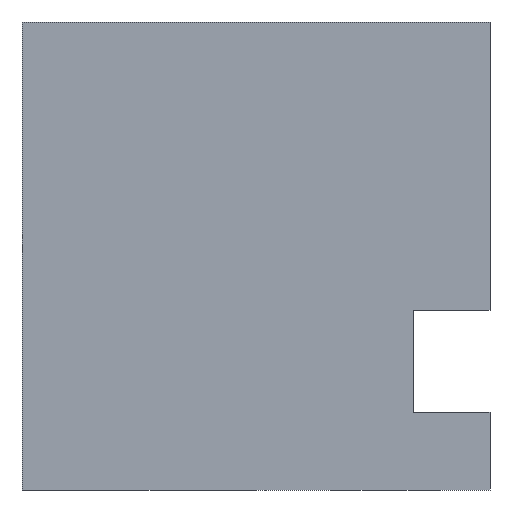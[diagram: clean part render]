
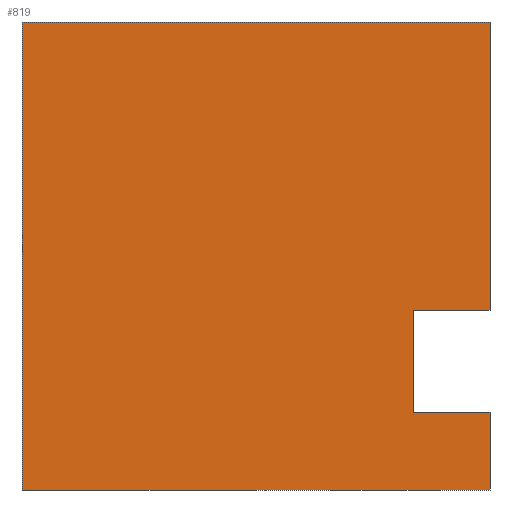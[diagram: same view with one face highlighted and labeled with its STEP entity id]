
A CAD part, left-side view. The second image highlights one B-rep face of the part: STEP entity #819.
In plain terms, the highlighted planar face has unit normal (-1, 0, 0).
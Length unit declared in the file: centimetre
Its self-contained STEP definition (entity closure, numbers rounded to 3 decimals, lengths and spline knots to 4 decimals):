
#5 = CARTESIAN_POINT ( 'NONE',  ( 0., 0., 0. ) ) ;
#16 = FACE_OUTER_BOUND ( 'NONE', #747, .T. ) ;
#43 = EDGE_CURVE ( 'NONE', #1281, #473, #462, .T. ) ;
#56 = EDGE_CURVE ( 'NONE', #553, #1281, #1005, .T. ) ;
#70 = DIRECTION ( 'NONE',  ( 0., 0., 1. ) ) ;
#110 = DIRECTION ( 'NONE',  ( 0., 0., -1. ) ) ;
#156 = EDGE_CURVE ( 'NONE', #461, #1168, #631, .T. ) ;
#166 = CARTESIAN_POINT ( 'NONE',  ( 0., 163.3216, 166.5053 ) ) ;
#204 = CARTESIAN_POINT ( 'NONE',  ( 0., 1000., 0. ) ) ;
#221 = DIRECTION ( 'NONE',  ( 1., 0., 0. ) ) ;
#246 = VECTOR ( 'NONE', #70, 100. ) ;
#250 = VERTEX_POINT ( 'NONE', #204 ) ;
#254 = EDGE_CURVE ( 'NONE', #553, #250, #896, .T. ) ;
#264 = DIRECTION ( 'NONE',  ( 0., -1., 0. ) ) ;
#278 = VECTOR ( 'NONE', #1382, 100. ) ;
#279 = LINE ( 'NONE', #405, #688 ) ;
#281 = VECTOR ( 'NONE', #1135, 100. ) ;
#289 = LINE ( 'NONE', #166, #246 ) ;
#310 = EDGE_CURVE ( 'NONE', #250, #1272, #1316, .T. ) ;
#338 = PLANE ( 'NONE',  #1257 ) ;
#384 = VECTOR ( 'NONE', #777, 100. ) ;
#395 = CARTESIAN_POINT ( 'NONE',  ( 0., 1000., 1000. ) ) ;
#396 = ORIENTED_EDGE ( 'NONE', *, *, #254, .T. ) ;
#405 = CARTESIAN_POINT ( 'NONE',  ( 0., 0., 384.5537 ) ) ;
#422 = CARTESIAN_POINT ( 'NONE',  ( 0., 1000., 1000. ) ) ;
#461 = VERTEX_POINT ( 'NONE', #798 ) ;
#462 = LINE ( 'NONE', #1450, #384 ) ;
#473 = VERTEX_POINT ( 'NONE', #693 ) ;
#532 = VERTEX_POINT ( 'NONE', #905 ) ;
#547 = EDGE_CURVE ( 'NONE', #461, #1272, #1073, .T. ) ;
#552 = CARTESIAN_POINT ( 'NONE',  ( 0., 1000., 0. ) ) ;
#553 = VERTEX_POINT ( 'NONE', #395 ) ;
#566 = VECTOR ( 'NONE', #871, 100. ) ;
#572 = CARTESIAN_POINT ( 'NONE',  ( 0., 1000., 1000. ) ) ;
#590 = VECTOR ( 'NONE', #944, 100. ) ;
#631 = LINE ( 'NONE', #1304, #278 ) ;
#688 = VECTOR ( 'NONE', #264, 100. ) ;
#693 = CARTESIAN_POINT ( 'NONE',  ( 0., 0., 384.5537 ) ) ;
#747 = EDGE_LOOP ( 'NONE', ( #982, #1174, #870, #1120, #927, #1384, #396, #1344 ) ) ;
#758 = CARTESIAN_POINT ( 'NONE',  ( 0., 163.3216, 166.5053 ) ) ;
#777 = DIRECTION ( 'NONE',  ( 0., 0., -1. ) ) ;
#798 = CARTESIAN_POINT ( 'NONE',  ( 0., 0., 166.5053 ) ) ;
#819 = ADVANCED_FACE ( 'NONE', ( #16 ), #338, .F. ) ;
#870 = ORIENTED_EDGE ( 'NONE', *, *, #908, .T. ) ;
#871 = DIRECTION ( 'NONE',  ( 0., -1., 0. ) ) ;
#896 = LINE ( 'NONE', #422, #1170 ) ;
#905 = CARTESIAN_POINT ( 'NONE',  ( 0., 163.3216, 384.5537 ) ) ;
#908 = EDGE_CURVE ( 'NONE', #1168, #532, #289, .T. ) ;
#927 = ORIENTED_EDGE ( 'NONE', *, *, #43, .F. ) ;
#944 = DIRECTION ( 'NONE',  ( 0., 0., -1. ) ) ;
#982 = ORIENTED_EDGE ( 'NONE', *, *, #547, .F. ) ;
#1005 = LINE ( 'NONE', #1253, #281 ) ;
#1073 = LINE ( 'NONE', #1422, #590 ) ;
#1120 = ORIENTED_EDGE ( 'NONE', *, *, #1387, .T. ) ;
#1135 = DIRECTION ( 'NONE',  ( 0., -1., 0. ) ) ;
#1168 = VERTEX_POINT ( 'NONE', #758 ) ;
#1170 = VECTOR ( 'NONE', #110, 100. ) ;
#1174 = ORIENTED_EDGE ( 'NONE', *, *, #156, .T. ) ;
#1253 = CARTESIAN_POINT ( 'NONE',  ( 0., 1000., 1000. ) ) ;
#1255 = DIRECTION ( 'NONE',  ( 0., 0., -1. ) ) ;
#1257 = AXIS2_PLACEMENT_3D ( 'NONE', #572, #221, #1255 ) ;
#1272 = VERTEX_POINT ( 'NONE', #5 ) ;
#1281 = VERTEX_POINT ( 'NONE', #1351 ) ;
#1304 = CARTESIAN_POINT ( 'NONE',  ( 0., 0., 166.5053 ) ) ;
#1316 = LINE ( 'NONE', #552, #566 ) ;
#1344 = ORIENTED_EDGE ( 'NONE', *, *, #310, .T. ) ;
#1351 = CARTESIAN_POINT ( 'NONE',  ( 0., 0., 1000. ) ) ;
#1382 = DIRECTION ( 'NONE',  ( 0., 1., 0. ) ) ;
#1384 = ORIENTED_EDGE ( 'NONE', *, *, #56, .F. ) ;
#1387 = EDGE_CURVE ( 'NONE', #532, #473, #279, .T. ) ;
#1422 = CARTESIAN_POINT ( 'NONE',  ( 0., 0., 1000. ) ) ;
#1450 = CARTESIAN_POINT ( 'NONE',  ( 0., 0., 1000. ) ) ;
